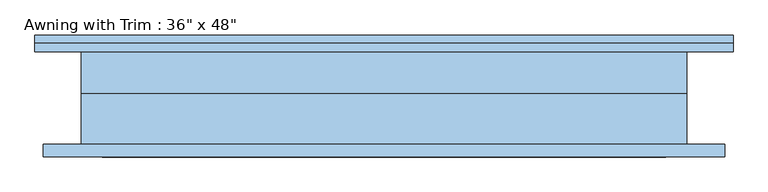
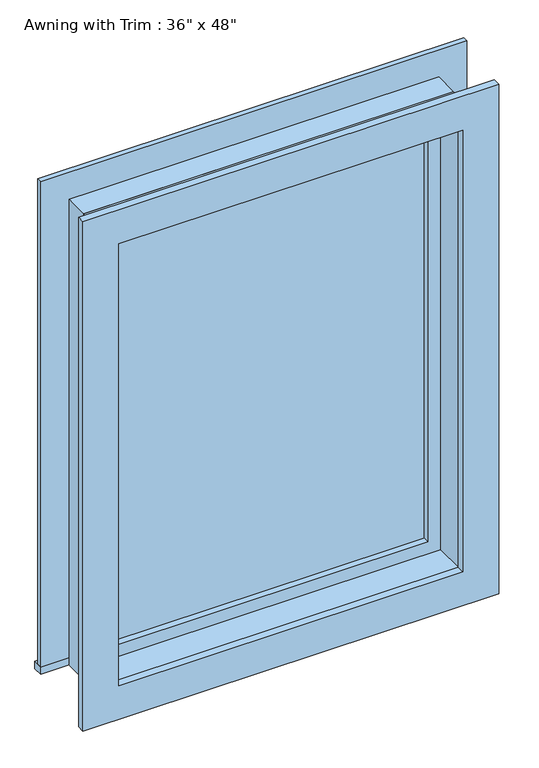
"""IFC4 building model written with IfcOpenShell, lengths in millimetres: window geometry."""

from ifc_helpers import new_model, si_unit, frame, origin, place, context, project, spatial, polyline, outline, extrude, source, transform, mapped, element, save


def window_847ece41(model_context):
    return source(origin(), model_context, "Body", "SweptSolid", [
        extrude(outline(polyline([(-527.05, 95.25), (527.05, 95.25), (527.05, 69.85), (-527.05, 69.85), (-527.05, 95.25)])), frame((0.0, 0.0, 914.4), z_axis=(0.0, 0.0, 1.0), x_axis=(1.0, 0.0, 0.0)), (0.0, 0.0, 1.0), 19.05),
        extrude(outline(polyline([(2114.55, -438.15), (2114.55, 438.15), (933.45, 438.15), (933.45, 527.05), (2203.45, 527.05), (2203.45, -527.05), (933.45, -527.05), (933.45, -438.15), (2114.55, -438.15)])), frame((0.0, 69.85, 0.0), z_axis=(0.0, 1.0, 0.0), x_axis=(0.0, 0.0, 1.0)), (0.0, 0.0, 1.0), 12.7),
        extrude(outline(polyline([(2190.75, 514.35), (2190.75, -514.35), (857.25, -514.35), (857.25, 514.35), (2190.75, 514.35)]), holes=[polyline([(2101.85, 425.45), (946.15, 425.45), (946.15, -425.45), (2101.85, -425.45), (2101.85, 425.45)])]), frame((0.0, -88.9, 0.0), z_axis=(0.0, 1.0, 0.0), x_axis=(0.0, 0.0, 1.0)), (0.0, 0.0, 1.0), 19.05),
        extrude(outline(polyline([(393.7, 22.225), (-393.7, 22.225), (-393.7, 34.925), (393.7, 34.925), (393.7, 22.225)])), frame((0.0, 0.0, 977.9), z_axis=(0.0, 0.0, 1.0), x_axis=(1.0, 0.0, 0.0)), (0.0, 0.0, 1.0), 1092.2),
        extrude(outline(polyline([(2114.55, -438.15), (933.45, -438.15), (933.45, 438.15), (2114.55, 438.15), (2114.55, -438.15)]), holes=[polyline([(2070.1, -393.7), (2070.1, 393.7), (977.9, 393.7), (977.9, -393.7), (2070.1, -393.7)])]), frame((0.0, 6.35, 0.0), z_axis=(0.0, 1.0, 0.0), x_axis=(0.0, 0.0, 1.0)), (0.0, 0.0, 1.0), 44.45),
        extrude(outline(polyline([(2133.6, -457.2), (914.4, -457.2), (914.4, 457.2), (2133.6, 457.2), (2133.6, -457.2)]), holes=[polyline([(2101.85, -425.45), (2101.85, 425.45), (946.15, 425.45), (946.15, -425.45), (2101.85, -425.45)])]), frame((0.0, -69.85, 0.0), z_axis=(0.0, 1.0, 0.0), x_axis=(0.0, 0.0, 1.0)), (0.0, 0.0, 1.0), 76.2),
        extrude(outline(polyline([(2133.6, 457.2), (2133.6, -457.2), (914.4, -457.2), (914.4, 457.2), (2133.6, 457.2)]), holes=[polyline([(2114.55, 438.15), (933.45, 438.15), (933.45, -438.15), (2114.55, -438.15), (2114.55, 438.15)])]), frame((0.0, 6.35, 0.0), z_axis=(0.0, 1.0, 0.0), x_axis=(0.0, 0.0, 1.0)), (0.0, 0.0, 1.0), 63.5),
    ])


if __name__ == "__main__":
    model = new_model("IFC4")
    model_context = context("Model", 3, world=origin())
    ifc_project = project(units=[si_unit("LENGTHUNIT", "METRE", prefix="MILLI")], contexts=[model_context])
    site = spatial("IfcSite", under=ifc_project)
    building = spatial("IfcBuilding", under=site)
    placement = place(None, origin())
    window_shape = window_847ece41(model_context)
    element("IfcWindow", 1, ObjectType="Awning with Trim : 36\" x 48\"", at=placement, inside=building, context=model_context, shape_type="MappedRepresentation", body=[
        mapped(window_shape, transform((0.0, 0.0, 0.0), x_axis=(1.0, 0.0, 0.0), y_axis=(0.0, 1.0, 0.0), z_axis=(0.0, 0.0, 1.0))),
    ])
    save(model, "model.ifc")
